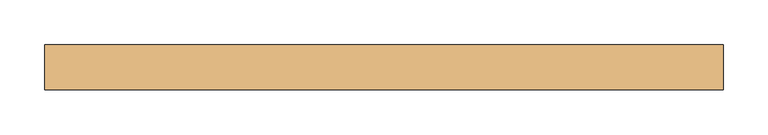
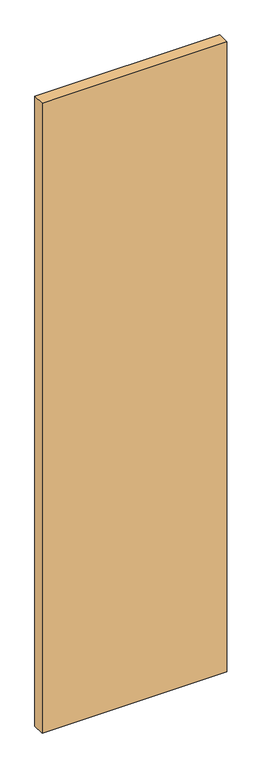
"""IFC4 building model written with IfcOpenShell, lengths in millimetres: door geometry, Planitar - Swap_Flush Panel : Planitar - Swap_Flush Panel."""

from ifc_helpers import new_model, si_unit, origin, origin_with_axes, place, context, project, spatial, polyline, outline, extrude, source, transform, mapped, element, save


def door_c8a44f2a(model_context):
    return source(origin(), model_context, "Body", "SweptSolid", [
        extrude(outline(polyline([(381.0, 25.4), (381.0, -25.4), (-381.0, -25.4), (-381.0, 25.4), (381.0, 25.4)])), origin_with_axes(), (0.0, 0.0, 1.0), 2743.2),
    ])


if __name__ == "__main__":
    model = new_model("IFC4")
    model_context = context("Model", 3, world=origin())
    ifc_project = project(units=[si_unit("LENGTHUNIT", "METRE", prefix="MILLI")], contexts=[model_context])
    site = spatial("IfcSite", under=ifc_project)
    building = spatial("IfcBuilding", under=site)
    placement = place(None, origin())
    door_shape = door_c8a44f2a(model_context)
    element("IfcDoor", 1, ObjectType="Planitar - Swap_Flush Panel : Planitar - Swap_Flush Panel", at=placement, inside=building, context=model_context, shape_type="MappedRepresentation", body=[
        mapped(door_shape, transform((0.0, 0.0, 0.0), x_axis=(1.0, 0.0, 0.0), y_axis=(0.0, 1.0, 0.0), z_axis=(0.0, 0.0, 1.0))),
    ])
    save(model, "model.ifc")
